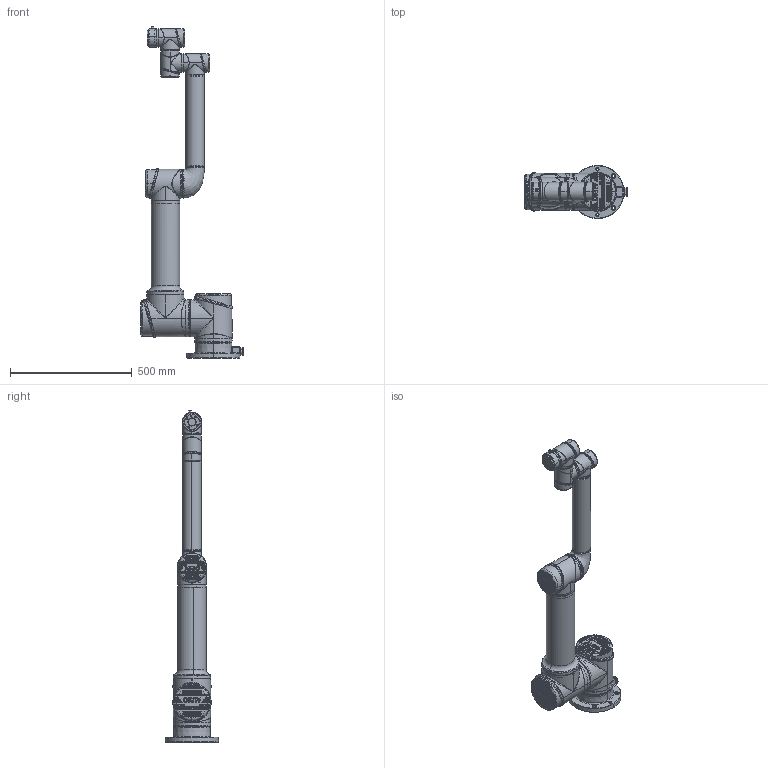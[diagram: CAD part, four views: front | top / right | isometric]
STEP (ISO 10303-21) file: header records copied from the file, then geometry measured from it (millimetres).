
FILE_DESCRIPTION (( 'STEP AP214' ), '1' );
FILE_NAME ('i7厙桴耀倰V1.0.STEP', '2019-07-22T02:49:52', ( '' ), ( '' ), 'SwSTEP 2.0', 'SolidWorks 2014', '' );
FILE_SCHEMA (( 'AUTOMOTIVE_DESIGN' ));
Length unit declared in the file: millimetre
Products named in the file (8): i7ID7; i7456; 錨璃20; i10id25-01; i7id02; i10id-01; i7i10ID00; i7厙桴耀倰V1.0
Assembly tree (10 placements, depth 2):
  i7厙桴耀倰V1.0
    i7i10ID00
    i10id-01  x2
    i7id02
    i10id25-01
    錨璃20
    i7456  x3
    i7ID7
Bounding box: 419.8 x 217.97 x 1361.51 mm (x, y, z)
Volume: 10040317.9 mm3; surface area: 1064444.4 mm2
Topology: 19 solids, 22 shells, 2040 faces, 5113 edges, 3227 vertices
Faces by surface type: plane 866, cylinder 524, bspline 477, cone 147, sphere 14, torus 12
Entity records: 68630 total; most frequent: CARTESIAN_POINT 34667, ORIENTED_EDGE 6554, DIRECTION 5808, EDGE_CURVE 3277, AXIS2_PLACEMENT_3D 2135, VERTEX_POINT 2086, LINE 1538, VECTOR 1538
